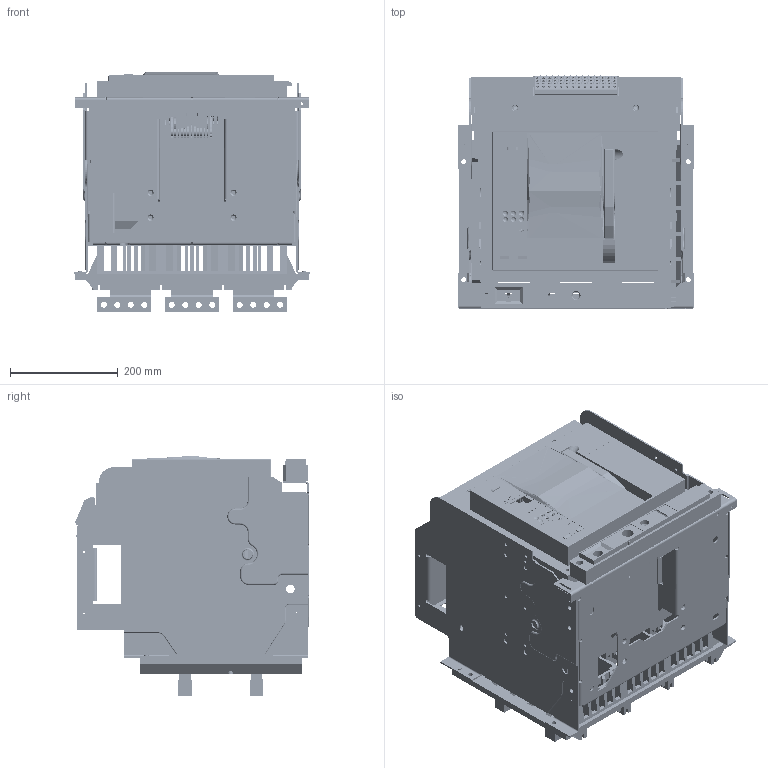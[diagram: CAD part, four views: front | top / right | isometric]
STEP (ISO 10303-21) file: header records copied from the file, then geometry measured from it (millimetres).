
FILE_DESCRIPTION((''),'2;1');
FILE_NAME('NA8G-4000-4000-3P-DO-SC_ASM','2020-01-15T17:24:12',('lcc'),(''),'CREO PARAMETRIC BY PTC INC, 2018020','CREO PARAMETRIC BY PTC INC, 2018020','');
FILE_SCHEMA(('CONFIG_CONTROL_DESIGN','SHAPE_APPEARANCE_LAYERS_GROUPS'));
Products named in the file (190): 8050A0306012; 8050A0306011; 8050A0306010; 5ZTD-020-050V; GBT809-M6X12-A; 5ZTD-020-050_ASM; 8-300-168; 8300A03040011; 8580A0412010; 8580A0412011; 5ZTD-024-175; 5024A0203009; 8-060-145-3; 8050A0306009; 8940A0310001; 5050A1527001_ASM; 8206A0312073; 8206A0312079; 8206A0312063; 8206A0312080; 8206A0312067; 8206A0312074; 8206A0312072; 8206A0312061; 8206A0312069; 5050A1516007_ASM; 8231A0306002; 8441A0101005; 8860A1424011; 5441A1526003_ASM; GBT896-3; GBT896-6; 8288A0820028_AF0; 8288A0820030_AF0; 5050A1526007_ASM; 8050A0307001; 8206A0312082; 8206A0312075; 5050A1516008_ASM; 8441A0101006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
Assembly tree (333 placements, depth 7):
  NA8G-4000-4000-3P-DO-SC_ASM
    8050A0306012
    8050A0306011
    8050A0306010
    5ZTD-020-050_ASM
      5ZTD-020-050V
      GBT809-M6X12-A  x24
    8-300-168
    8300A03040011
    8580A0412010  x2
    8580A0412011  x4
    NA8G-4000-3P-BT-SC_ASM
      5ZTD-024-175
      5024A0203009
      8-060-145-3
      NA8G-4000-3P-JG_ASM
        5050A1526007_ASM
          5050A1516007_ASM
            5050A1527001_ASM
              8050A0306009
              8940A0310001
            8206A0312073  x3
            8206A0312079
            8206A0312063
            8206A0312080  x2
            8206A0312067
            8206A0312074  x2
            8206A0312072
            8206A0312061
            8206A0312069
          8231A0306002
          5441A1526003_ASM
            8441A0101005
            8860A1424011
          GBT896-3
          GBT896-6
          8288A0820028_AF0
          8288A0820030_AF0
        5050A1526008_ASM
          5050A1516008_ASM
            8050A0307001
            8206A0312082
            8206A0312073  x3
            8206A0312069
            8206A0312075
          5441A1526004_ASM
            8441A0101006
            8860A1424010
          8206A0312078  x2
          8235A0306002
          GBT93-3  x2
          GBT6170-M3  x2
          GBT896-2
          GBT896-3  x2
          GBT896-4  x2
          8288A0820030_AF1
          8288A0820030_AF2
          8288A0820024_AF0
          8288A0820025_AF0
        8206A0312066
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Bounding box: 437 x 433.03 x 447 mm (x, y, z)
Volume: 12443975.4 mm3; surface area: 5549360.6 mm2
Topology: 480 solids, 586 shells, 29701 faces, 79516 edges, 51578 vertices
Faces by surface type: plane 19850, cylinder 6589, cone 1486, bspline 1007, torus 551, sphere 202, extrusion 16
Entity records: 590513 total; most frequent: CARTESIAN_POINT 142444, ORIENTED_EDGE 71359, DIRECTION 69897, EDGE_CURVE 35791, PRESENTATION_STYLE_ASSIGNMENT 31070, STYLED_ITEM 29892, CURVE_STYLE 29705, VECTOR 26587
